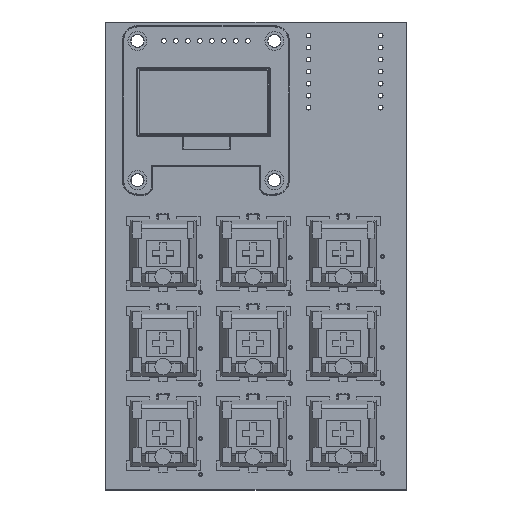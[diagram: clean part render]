
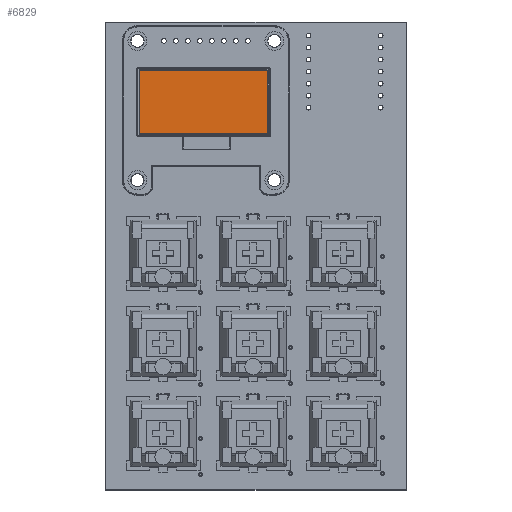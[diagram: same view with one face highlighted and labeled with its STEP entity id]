
A CAD part, top view. The second image highlights one B-rep face of the part: STEP entity #6829.
In plain terms, the highlighted planar face has unit normal (0, 0, 1).
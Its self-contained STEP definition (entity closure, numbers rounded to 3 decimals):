
#6738 = VERTEX_POINT('',#6739);
#6739 = CARTESIAN_POINT('',(21.98,-19.68,2.9));
#6745 = EDGE_CURVE('',#6738,#6746,#6748,.T.);
#6746 = VERTEX_POINT('',#6747);
#6747 = CARTESIAN_POINT('',(21.98,-6.2,2.9));
#6748 = LINE('',#6749,#6750);
#6749 = CARTESIAN_POINT('',(21.98,-19.68,2.9));
#6750 = VECTOR('',#6751,1.);
#6751 = DIRECTION('',(0.,1.,0.));
#6769 = EDGE_CURVE('',#6770,#6738,#6772,.T.);
#6770 = VERTEX_POINT('',#6771);
#6771 = CARTESIAN_POINT('',(-5.2,-19.68,2.9));
#6772 = LINE('',#6773,#6774);
#6773 = CARTESIAN_POINT('',(-5.2,-19.68,2.9));
#6774 = VECTOR('',#6775,1.);
#6775 = DIRECTION('',(1.,0.,0.));
#6793 = EDGE_CURVE('',#6794,#6746,#6796,.T.);
#6794 = VERTEX_POINT('',#6795);
#6795 = CARTESIAN_POINT('',(-5.2,-6.2,2.9));
#6796 = LINE('',#6797,#6798);
#6797 = CARTESIAN_POINT('',(-5.2,-6.2,2.9));
#6798 = VECTOR('',#6799,1.);
#6799 = DIRECTION('',(1.,0.,0.));
#6817 = EDGE_CURVE('',#6770,#6794,#6818,.T.);
#6818 = LINE('',#6819,#6820);
#6819 = CARTESIAN_POINT('',(-5.2,-19.68,2.9));
#6820 = VECTOR('',#6821,1.);
#6821 = DIRECTION('',(0.,1.,0.));
#6829 = ADVANCED_FACE('',(#6830),#6836,.T.);
#6830 = FACE_BOUND('',#6831,.T.);
#6831 = EDGE_LOOP('',(#6832,#6833,#6834,#6835));
#6832 = ORIENTED_EDGE('',*,*,#6817,.F.);
#6833 = ORIENTED_EDGE('',*,*,#6769,.T.);
#6834 = ORIENTED_EDGE('',*,*,#6745,.T.);
#6835 = ORIENTED_EDGE('',*,*,#6793,.F.);
#6836 = PLANE('',#6837);
#6837 = AXIS2_PLACEMENT_3D('',#6838,#6839,#6840);
#6838 = CARTESIAN_POINT('',(-5.2,-19.68,2.9));
#6839 = DIRECTION('',(0.,0.,1.));
#6840 = DIRECTION('',(1.,0.,-0.));
